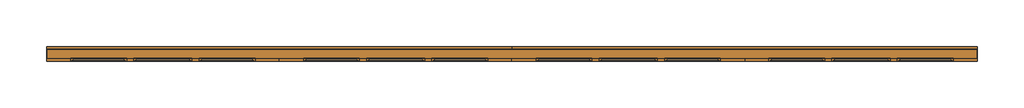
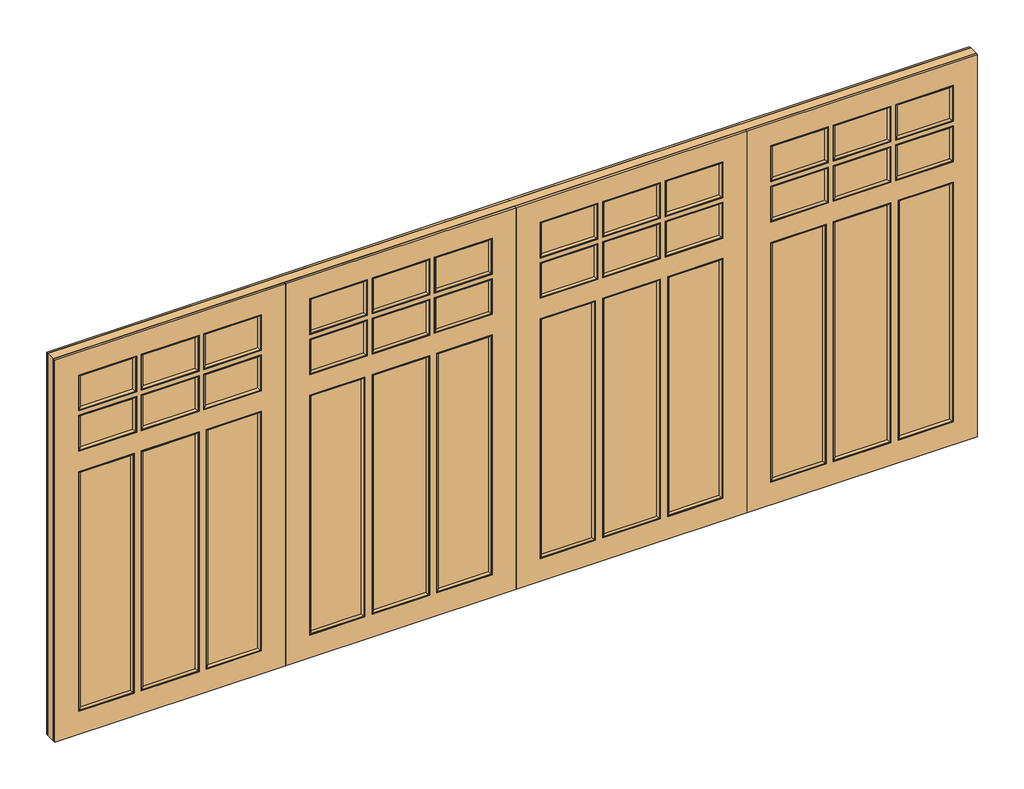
# One storey: 1 door.
"""IFC4 building model written with IfcOpenShell, lengths in millimetres."""

from ifc_helpers import new_model, si_unit, origin, place, context, project, spatial, transform, mapped, element, save
from components import garage_door_16_wide_steel_16_x8_design_303_i_88b9e82d, garage_door_16_wide_steel_16_x8_design_303_i_b9bc2bef, garage_door_16_wide_steel_16_x8_design_303_i_fd549f48, garage_door_16_wide_steel_16_x8_design_303_i_4d817679

model = new_model("IFC4")

# Units and contexts
model_context = context("Model", 3, world=origin())
ifc_project = project(units=[si_unit("LENGTHUNIT", "METRE", prefix="MILLI")], contexts=[model_context])

# Site, building, storey
site = spatial("IfcSite", under=ifc_project)
building = spatial("IfcBuilding", under=site)
storey = spatial("IfcBuildingStorey", under=building, Name="T.O. 1st Joists", Elevation=-28.575)

# Door
placement = place(None, origin())
garage_door_16_wide_steel_16_x8_design_303_i_shape = garage_door_16_wide_steel_16_x8_design_303_i_88b9e82d(model_context)
garage_door_16_wide_steel_16_x8_design_303_i_2_shape = garage_door_16_wide_steel_16_x8_design_303_i_b9bc2bef(model_context)
garage_door_16_wide_steel_16_x8_design_303_i_3_shape = garage_door_16_wide_steel_16_x8_design_303_i_fd549f48(model_context)
garage_door_16_wide_steel_16_x8_design_303_i_4_shape = garage_door_16_wide_steel_16_x8_design_303_i_4d817679(model_context)
element("IfcDoor", 1, ObjectType="Garage Door - 16' Wide (Steel) : 16'x8' Design 303-I", at=placement, inside=storey, context=model_context, shape_type="MappedRepresentation", body=[
    mapped(garage_door_16_wide_steel_16_x8_design_303_i_shape, transform((-6119.9413349, 2477.420971, -196.9615666), x_axis=(-1.0, 0.0, 0.0), y_axis=(0.0, -1.0, 0.0), z_axis=(0.0, 0.0, 1.0))),
    mapped(garage_door_16_wide_steel_16_x8_design_303_i_2_shape, transform((-6119.9413349, 2477.420971, -196.9615666), x_axis=(-1.0, 0.0, 0.0), y_axis=(0.0, -1.0, 0.0), z_axis=(0.0, 0.0, 1.0))),
    mapped(garage_door_16_wide_steel_16_x8_design_303_i_3_shape, transform((-6119.9413349, 2477.420971, -196.9615666), x_axis=(-1.0, 0.0, 0.0), y_axis=(0.0, -1.0, 0.0), z_axis=(0.0, 0.0, 1.0))),
    mapped(garage_door_16_wide_steel_16_x8_design_303_i_4_shape, transform((-6119.9413349, 2477.420971, -196.9615666), x_axis=(-1.0, 0.0, 0.0), y_axis=(0.0, -1.0, 0.0), z_axis=(0.0, 0.0, 1.0))),
])

save(model, "model.ifc")
